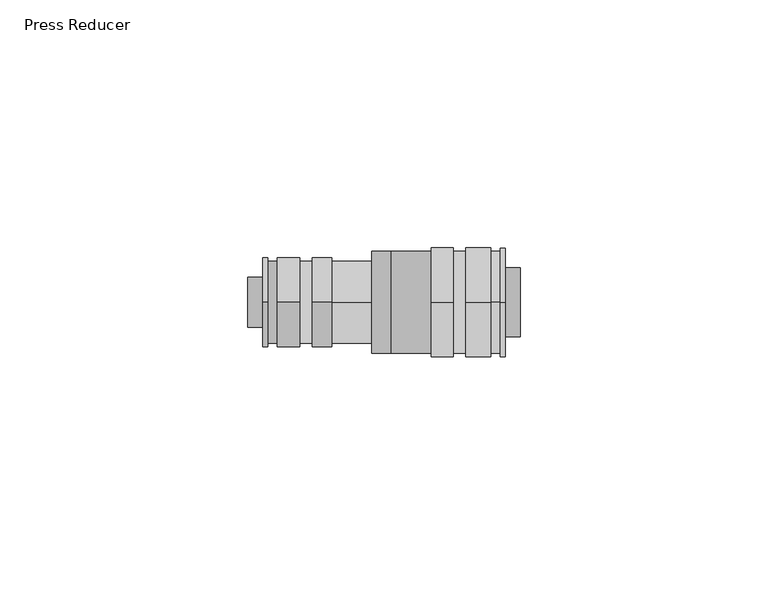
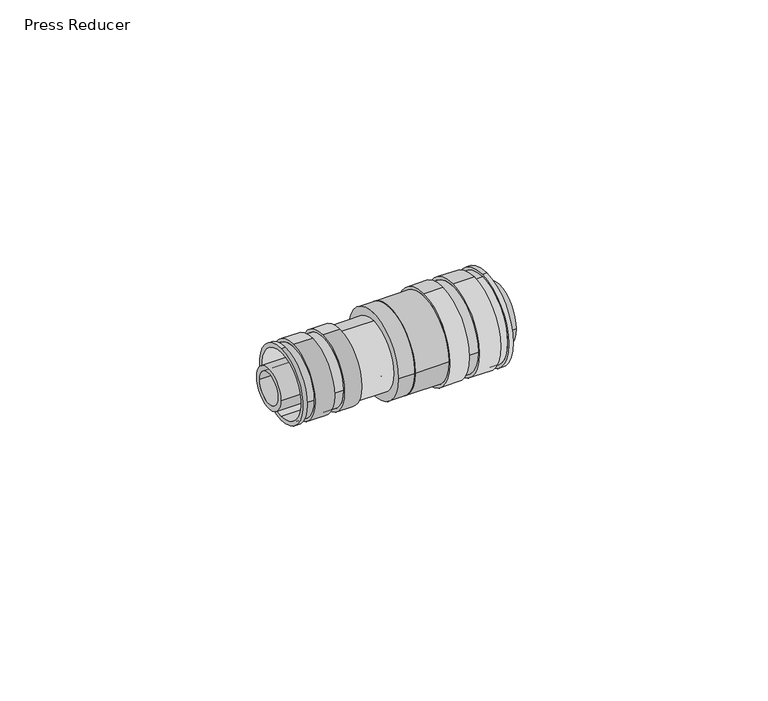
"""IFC4 building model written with IfcOpenShell, lengths in millimetres: pipe fitting geometry, Press Reducer : Superpipe Press Reducer."""

from ifc_helpers import new_model, si_unit, point, frame, frame_2d, origin, place, context, project, spatial, polyline, circle_curve, trimmed, segment, composite_curve, outline, extrude, source, transform, mapped, element, save
from ifc_brep_helpers import plane_surface, cylinder_surface, revolved_surface, advanced_brep


def press_reducer_475ca5cc(model_context):
    return source(origin(), model_context, "Body", "SolidModel", [
        advanced_brep(
        [(3.0, 0.0, -9.0), (3.0, 0.0, 9.0), (3.0, 0.0, -8.0), (3.0, 0.0, 8.0), (25.0, 0.0, -8.3), (25.0, 0.0, 8.3), (25.0, 0.0, -8.0), (25.0, 0.0, 8.0), (4.0, 0.0, -9.0), (4.0, -9.0, 0.0), (4.0, 0.0, 9.0), (17.0, 0.0, -9.0), (17.0, 0.0, 9.0), (13.0, 0.0, 9.0), (13.0, -9.0, 0.0), (13.0, 0.0, -9.0), (10.5, 0.0, -9.0), (10.5, -9.0, 0.0), (10.5, 0.0, 9.0), (6.0, 0.0, 9.0), (6.0, -9.0, 0.0), (6.0, 0.0, -9.0), (4.0, 9.0, 0.0), (13.0, 9.0, 0.0), (10.5, 9.0, 0.0), (6.0, 9.0, 0.0), (17.0, 0.0, -8.3), (17.0, 0.0, 8.3), (10.5, 8.3, 0.0), (10.5, -8.3, 0.0), (13.0, 8.3, 0.0), (13.0, -8.3, 0.0), (6.0, -8.3, 0.0), (6.0, 8.3, 0.0), (4.0, -8.3, 0.0), (4.0, 8.3, 0.0)],
        [
            (0, 1, circle_curve(frame((3.0, 0.0, 0.0), z_axis=(-1.0, 0.0, 0.0), x_axis=(0.0, 0.0, 1.0)), 9.0)),
            (1, 0, circle_curve(frame((3.0, 0.0, 0.0), z_axis=(-1.0, 0.0, 0.0), x_axis=(0.0, 0.0, 1.0)), 9.0)),
            (2, 3, circle_curve(frame((3.0, 0.0, 0.0), z_axis=(1.0, 0.0, 0.0), x_axis=(0.0, 0.0, 1.0)), 8.0)),
            (3, 2, circle_curve(frame((3.0, 0.0, 0.0), z_axis=(1.0, 0.0, 0.0), x_axis=(0.0, 0.0, 1.0)), 8.0)),
            (4, 5, circle_curve(frame((25.0, 0.0, 0.0), z_axis=(1.0, 0.0, 0.0), x_axis=(0.0, 0.0, 1.0)), 8.3)),
            (5, 4, circle_curve(frame((25.0, 0.0, 0.0), z_axis=(1.0, 0.0, 0.0), x_axis=(0.0, 0.0, 1.0)), 8.3)),
            (6, 7, circle_curve(frame((25.0, 0.0, 0.0), z_axis=(-1.0, 0.0, 0.0), x_axis=(0.0, 0.0, 1.0)), 8.0)),
            (7, 6, circle_curve(frame((25.0, 0.0, 0.0), z_axis=(-1.0, 0.0, 0.0), x_axis=(0.0, 0.0, 1.0)), 8.0)),
            (0, 8),
            (8, 9, circle_curve(frame((4.0, 0.0, 0.0), z_axis=(-1.0, 0.0, 0.0), x_axis=(0.0, 0.0, 1.0)), 9.0)),
            (9, 10, circle_curve(frame((4.0, 0.0, 0.0), z_axis=(-1.0, 0.0, 0.0), x_axis=(0.0, 0.0, 1.0)), 9.0)),
            (10, 1),
            (11, 12, circle_curve(frame((17.0, 0.0, 0.0), z_axis=(-1.0, 0.0, 0.0), x_axis=(0.0, 0.0, 1.0)), 9.0)),
            (12, 13),
            (13, 14, circle_curve(frame((13.0, 0.0, 0.0), z_axis=(1.0, 0.0, 0.0), x_axis=(0.0, 0.0, 1.0)), 9.0)),
            (14, 15, circle_curve(frame((13.0, 0.0, 0.0), z_axis=(1.0, 0.0, 0.0), x_axis=(0.0, 0.0, 1.0)), 9.0)),
            (15, 11),
            (16, 17, circle_curve(frame((10.5, 0.0, 0.0), z_axis=(-1.0, 0.0, 0.0), x_axis=(0.0, 0.0, 1.0)), 9.0)),
            (17, 18, circle_curve(frame((10.5, 0.0, 0.0), z_axis=(-1.0, 0.0, 0.0), x_axis=(0.0, 0.0, 1.0)), 9.0)),
            (18, 19),
            (19, 20, circle_curve(frame((6.0, 0.0, 0.0), z_axis=(1.0, 0.0, 0.0), x_axis=(0.0, 0.0, 1.0)), 9.0)),
            (20, 21, circle_curve(frame((6.0, 0.0, 0.0), z_axis=(1.0, 0.0, 0.0), x_axis=(0.0, 0.0, 1.0)), 9.0)),
            (21, 16),
            (10, 22, circle_curve(frame((4.0, 0.0, 0.0), z_axis=(-1.0, 0.0, 0.0), x_axis=(0.0, 0.0, 1.0)), 9.0)),
            (22, 8, circle_curve(frame((4.0, 0.0, 0.0), z_axis=(-1.0, 0.0, 0.0), x_axis=(0.0, 0.0, 1.0)), 9.0)),
            (12, 11, circle_curve(frame((17.0, 0.0, 0.0), z_axis=(-1.0, 0.0, 0.0), x_axis=(0.0, 0.0, 1.0)), 9.0)),
            (15, 23, circle_curve(frame((13.0, 0.0, 0.0), z_axis=(1.0, 0.0, 0.0), x_axis=(0.0, 0.0, 1.0)), 9.0)),
            (23, 13, circle_curve(frame((13.0, 0.0, 0.0), z_axis=(1.0, 0.0, 0.0), x_axis=(0.0, 0.0, 1.0)), 9.0)),
            (24, 16, circle_curve(frame((10.5, 0.0, 0.0), z_axis=(-1.0, 0.0, 0.0), x_axis=(0.0, 0.0, 1.0)), 9.0)),
            (21, 25, circle_curve(frame((6.0, 0.0, 0.0), z_axis=(1.0, 0.0, 0.0), x_axis=(0.0, 0.0, 1.0)), 9.0)),
            (25, 19, circle_curve(frame((6.0, 0.0, 0.0), z_axis=(1.0, 0.0, 0.0), x_axis=(0.0, 0.0, 1.0)), 9.0)),
            (18, 24, circle_curve(frame((10.5, 0.0, 0.0), z_axis=(-1.0, 0.0, 0.0), x_axis=(0.0, 0.0, 1.0)), 9.0)),
            (2, 6),
            (7, 3),
            (26, 27, circle_curve(frame((17.0, 0.0, 0.0), z_axis=(-1.0, 0.0, 0.0), x_axis=(0.0, 0.0, 1.0)), 8.3)),
            (27, 26, circle_curve(frame((17.0, 0.0, 0.0), z_axis=(-1.0, 0.0, 0.0), x_axis=(0.0, 0.0, 1.0)), 8.3)),
            (27, 5),
            (4, 26),
            (28, 29, circle_curve(frame((10.5, 0.0, 0.0), z_axis=(-1.0, 0.0, 0.0), x_axis=(0.0, -1.0, 0.0)), 8.3)),
            (29, 28, circle_curve(frame((10.5, 0.0, 0.0), z_axis=(-1.0, 0.0, 0.0), x_axis=(0.0, -1.0, 0.0)), 8.3)),
            (30, 31, circle_curve(frame((13.0, 0.0, 0.0), z_axis=(1.0, 0.0, 0.0), x_axis=(0.0, -1.0, 0.0)), 8.3)),
            (31, 30, circle_curve(frame((13.0, 0.0, 0.0), z_axis=(1.0, 0.0, 0.0), x_axis=(0.0, -1.0, 0.0)), 8.3)),
            (29, 31),
            (30, 28),
            (32, 33, circle_curve(frame((6.0, 0.0, 0.0), z_axis=(1.0, 0.0, 0.0), x_axis=(0.0, 1.0, 0.0)), 8.3)),
            (33, 32, circle_curve(frame((6.0, 0.0, 0.0), z_axis=(1.0, 0.0, 0.0), x_axis=(0.0, 1.0, 0.0)), 8.3)),
            (34, 35, circle_curve(frame((4.0, 0.0, 0.0), z_axis=(-1.0, 0.0, 0.0), x_axis=(0.0, 1.0, 0.0)), 8.3)),
            (35, 34, circle_curve(frame((4.0, 0.0, 0.0), z_axis=(-1.0, 0.0, 0.0), x_axis=(0.0, 1.0, 0.0)), 8.3)),
            (33, 35),
            (34, 32),
        ],
        [
            plane_surface(frame((3.0, 0.0, 9.0), z_axis=(-1.0, 0.0, 0.0), x_axis=(0.0, 1.0, 0.0))),
            plane_surface(frame((25.0, 0.0, 9.0), z_axis=(1.0, 0.0, 0.0), x_axis=(0.0, -1.0, 0.0))),
            cylinder_surface(frame((25.0, 0.0, 0.0), z_axis=(-1.0, 0.0, 0.0), x_axis=(0.0, 0.0, 1.0)), 9.0),
            revolved_surface(polyline([(25.0, 0.0, 8.0), (3.0, 0.0, 8.0)]), (25.0, 0.0, 0.0), (1.0, 0.0, 0.0)),
            plane_surface(frame((17.0, 0.0, 9.0), z_axis=(1.0, 0.0, 0.0), x_axis=(0.0, 1.0, 0.0))),
            cylinder_surface(frame((25.0, 0.0, 0.0), z_axis=(1.0, 0.0, 0.0), x_axis=(0.0, 0.0, 1.0)), 8.3),
            plane_surface(frame((10.5, -9.0, 0.0), z_axis=(1.0, 0.0, 0.0), x_axis=(0.0, 0.0, 1.0))),
            plane_surface(frame((13.0, -9.0, 0.0), z_axis=(-1.0, 0.0, 0.0), x_axis=(0.0, 0.0, -1.0))),
            cylinder_surface(frame((13.0, 0.0, 0.0), z_axis=(1.0, 0.0, 0.0), x_axis=(0.0, -1.0, 0.0)), 8.3),
            plane_surface(frame((6.0, 9.0, 0.0), z_axis=(-1.0, 0.0, 0.0), x_axis=(0.0, 0.0, 1.0))),
            plane_surface(frame((4.0, 9.0, 0.0), z_axis=(1.0, 0.0, 0.0), x_axis=(0.0, 0.0, -1.0))),
            cylinder_surface(frame((3.0, 0.0, 0.0), z_axis=(-1.0, 0.0, 0.0), x_axis=(0.0, 1.0, 0.0)), 8.3),
        ],
        [
            (0, [[1, 2], [3, 4]]),
            (1, [[5, 6], [7, 8]]),
            (2, [[-1, 9, 10, 11, 12]]),
            (2, [[13, 14, 15, 16, 17]]),
            (2, [[18, 19, 20, 21, 22, 23]]),
            (2, [[-2, -12, 24, 25, -9]]),
            (2, [[26, -17, 27, 28, -14]]),
            (2, [[29, -23, 30, 31, -20, 32]]),
            (3, [[-3, 33, -8, 34]]),
            (3, [[-4, -34, -7, -33]]),
            (4, [[-13, -26], [35, 36]]),
            (5, [[-36, 37, -5, 38]]),
            (5, [[-35, -38, -6, -37]]),
            (6, [[-18, -29, -32, -19], [39, 40]]),
            (7, [[-16, -15, -28, -27], [41, 42]]),
            (8, [[-40, 43, -41, 44]]),
            (8, [[-39, -44, -42, -43]]),
            (9, [[-22, -21, -31, -30], [45, 46]]),
            (10, [[-10, -25, -24, -11], [47, 48]]),
            (11, [[-46, 49, -47, 50]]),
            (11, [[-45, -50, -48, -49]]),
        ],
    ),
        advanced_brep(
        [(52.0, 0.0, -11.0), (52.0, 0.0, 11.0), (52.0, 0.0, -10.0), (52.0, 0.0, 10.0), (29.0, -10.3, 0.0), (29.0, 10.3, 0.0), (29.0, 0.0, -10.0), (29.0, 0.0, 10.0), (51.0, 0.0, -11.0), (51.0, 0.0, 11.0), (37.0, 0.0, -11.0), (37.0, 11.0, 0.0), (37.0, 0.0, 11.0), (41.5, 0.0, 11.0), (41.5, 11.0, 0.0), (41.5, 0.0, -11.0), (49.0, 0.0, 11.0), (49.0, 0.0, -11.0), (44.0, 0.0, -11.0), (44.0, 11.0, 0.0), (44.0, 0.0, 11.0), (37.0, -11.0, 0.0), (41.5, -11.0, 0.0), (44.0, -11.0, 0.0), (37.0, -10.3, 0.0), (37.0, 10.3, 0.0), (49.0, 0.0, 10.3), (49.0, 0.0, -10.3), (51.0, 0.0, 10.3), (51.0, 0.0, -10.3), (41.5, 10.3, 0.0), (41.5, -10.3, 0.0), (44.0, 10.3, 0.0), (44.0, -10.3, 0.0)],
        [
            (0, 1, circle_curve(frame((52.0, 0.0, 0.0), z_axis=(1.0, 0.0, 0.0), x_axis=(0.0, 0.0, 1.0)), 11.0)),
            (1, 0, circle_curve(frame((52.0, 0.0, 0.0), z_axis=(1.0, 0.0, 0.0), x_axis=(0.0, 0.0, 1.0)), 11.0)),
            (2, 3, circle_curve(frame((52.0, 0.0, 0.0), z_axis=(-1.0, 0.0, 0.0), x_axis=(0.0, 0.0, 1.0)), 10.0)),
            (3, 2, circle_curve(frame((52.0, 0.0, 0.0), z_axis=(-1.0, 0.0, 0.0), x_axis=(0.0, 0.0, 1.0)), 10.0)),
            (4, 5, circle_curve(frame((29.0, 0.0, 0.0), z_axis=(-1.0, 0.0, 0.0), x_axis=(0.0, 1.0, 0.0)), 10.3)),
            (5, 4, circle_curve(frame((29.0, 0.0, 0.0), z_axis=(-1.0, 0.0, 0.0), x_axis=(0.0, 1.0, 0.0)), 10.3)),
            (6, 7, circle_curve(frame((29.0, 0.0, 0.0), z_axis=(1.0, 0.0, 0.0), x_axis=(0.0, 0.0, 1.0)), 10.0)),
            (7, 6, circle_curve(frame((29.0, 0.0, 0.0), z_axis=(1.0, 0.0, 0.0), x_axis=(0.0, 0.0, 1.0)), 10.0)),
            (0, 8),
            (8, 9, circle_curve(frame((51.0, 0.0, 0.0), z_axis=(1.0, 0.0, 0.0), x_axis=(0.0, 0.0, 1.0)), 11.0)),
            (9, 1),
            (10, 11, circle_curve(frame((37.0, 0.0, 0.0), z_axis=(1.0, 0.0, 0.0), x_axis=(0.0, 0.0, 1.0)), 11.0)),
            (11, 12, circle_curve(frame((37.0, 0.0, 0.0), z_axis=(1.0, 0.0, 0.0), x_axis=(0.0, 0.0, 1.0)), 11.0)),
            (12, 13),
            (13, 14, circle_curve(frame((41.5, 0.0, 0.0), z_axis=(-1.0, 0.0, 0.0), x_axis=(0.0, 0.0, 1.0)), 11.0)),
            (14, 15, circle_curve(frame((41.5, 0.0, 0.0), z_axis=(-1.0, 0.0, 0.0), x_axis=(0.0, 0.0, 1.0)), 11.0)),
            (15, 10),
            (16, 17, circle_curve(frame((49.0, 0.0, 0.0), z_axis=(-1.0, 0.0, 0.0), x_axis=(0.0, 0.0, 1.0)), 11.0)),
            (17, 18),
            (18, 19, circle_curve(frame((44.0, 0.0, 0.0), z_axis=(1.0, 0.0, 0.0), x_axis=(0.0, 0.0, 1.0)), 11.0)),
            (19, 20, circle_curve(frame((44.0, 0.0, 0.0), z_axis=(1.0, 0.0, 0.0), x_axis=(0.0, 0.0, 1.0)), 11.0)),
            (20, 16),
            (9, 8, circle_curve(frame((51.0, 0.0, 0.0), z_axis=(1.0, 0.0, 0.0), x_axis=(0.0, 0.0, 1.0)), 11.0)),
            (21, 10, circle_curve(frame((37.0, 0.0, 0.0), z_axis=(1.0, 0.0, 0.0), x_axis=(0.0, 0.0, 1.0)), 11.0)),
            (15, 22, circle_curve(frame((41.5, 0.0, 0.0), z_axis=(-1.0, 0.0, 0.0), x_axis=(0.0, 0.0, 1.0)), 11.0)),
            (22, 13, circle_curve(frame((41.5, 0.0, 0.0), z_axis=(-1.0, 0.0, 0.0), x_axis=(0.0, 0.0, 1.0)), 11.0)),
            (12, 21, circle_curve(frame((37.0, 0.0, 0.0), z_axis=(1.0, 0.0, 0.0), x_axis=(0.0, 0.0, 1.0)), 11.0)),
            (17, 16, circle_curve(frame((49.0, 0.0, 0.0), z_axis=(-1.0, 0.0, 0.0), x_axis=(0.0, 0.0, 1.0)), 11.0)),
            (20, 23, circle_curve(frame((44.0, 0.0, 0.0), z_axis=(1.0, 0.0, 0.0), x_axis=(0.0, 0.0, 1.0)), 11.0)),
            (23, 18, circle_curve(frame((44.0, 0.0, 0.0), z_axis=(1.0, 0.0, 0.0), x_axis=(0.0, 0.0, 1.0)), 11.0)),
            (2, 6),
            (7, 3),
            (24, 25, circle_curve(frame((37.0, 0.0, 0.0), z_axis=(1.0, 0.0, 0.0), x_axis=(0.0, 1.0, 0.0)), 10.3)),
            (25, 24, circle_curve(frame((37.0, 0.0, 0.0), z_axis=(1.0, 0.0, 0.0), x_axis=(0.0, 1.0, 0.0)), 10.3)),
            (25, 5),
            (4, 24),
            (26, 27, circle_curve(frame((49.0, 0.0, 0.0), z_axis=(-1.0, 0.0, 0.0), x_axis=(0.0, 0.0, -1.0)), 10.3)),
            (27, 26, circle_curve(frame((49.0, 0.0, 0.0), z_axis=(-1.0, 0.0, 0.0), x_axis=(0.0, 0.0, -1.0)), 10.3)),
            (28, 29, circle_curve(frame((51.0, 0.0, 0.0), z_axis=(1.0, 0.0, 0.0), x_axis=(0.0, 0.0, -1.0)), 10.3)),
            (29, 28, circle_curve(frame((51.0, 0.0, 0.0), z_axis=(1.0, 0.0, 0.0), x_axis=(0.0, 0.0, -1.0)), 10.3)),
            (27, 29),
            (28, 26),
            (30, 31, circle_curve(frame((41.5, 0.0, 0.0), z_axis=(-1.0, 0.0, 0.0), x_axis=(0.0, -1.0, 0.0)), 10.3)),
            (31, 30, circle_curve(frame((41.5, 0.0, 0.0), z_axis=(-1.0, 0.0, 0.0), x_axis=(0.0, -1.0, 0.0)), 10.3)),
            (32, 33, circle_curve(frame((44.0, 0.0, 0.0), z_axis=(1.0, 0.0, 0.0), x_axis=(0.0, -1.0, 0.0)), 10.3)),
            (33, 32, circle_curve(frame((44.0, 0.0, 0.0), z_axis=(1.0, 0.0, 0.0), x_axis=(0.0, -1.0, 0.0)), 10.3)),
            (31, 33),
            (32, 30),
        ],
        [
            plane_surface(frame((52.0, 0.0, 11.0), z_axis=(1.0, 0.0, 0.0), x_axis=(0.0, -1.0, 0.0))),
            plane_surface(frame((29.0, 0.0, 11.0), z_axis=(-1.0, 0.0, 0.0), x_axis=(0.0, 1.0, 0.0))),
            cylinder_surface(frame((29.0, 0.0, 0.0), z_axis=(1.0, 0.0, 0.0), x_axis=(0.0, 0.0, 1.0)), 11.0),
            revolved_surface(polyline([(29.0, 0.0, 10.0), (52.0, 0.0, 10.0)]), (29.0, 0.0, 0.0), (-1.0, 0.0, 0.0)),
            plane_surface(frame((37.0, 11.0, 0.0), z_axis=(-1.0, 0.0, 0.0), x_axis=(0.0, 0.0, 1.0))),
            cylinder_surface(frame((29.0, 0.0, 0.0), z_axis=(-1.0, 0.0, 0.0), x_axis=(0.0, 1.0, 0.0)), 10.3),
            plane_surface(frame((49.0, 0.0, -11.0), z_axis=(1.0, 0.0, 0.0), x_axis=(0.0, -1.0, 0.0))),
            plane_surface(frame((51.0, 0.0, -11.0), z_axis=(-1.0, 0.0, 0.0), x_axis=(0.0, 1.0, 0.0))),
            cylinder_surface(frame((52.0, 0.0, 0.0), z_axis=(1.0, 0.0, 0.0), x_axis=(0.0, 0.0, -1.0)), 10.3),
            plane_surface(frame((41.5, -11.0, 0.0), z_axis=(1.0, 0.0, 0.0), x_axis=(0.0, 0.0, 1.0))),
            plane_surface(frame((44.0, -11.0, 0.0), z_axis=(-1.0, 0.0, 0.0), x_axis=(0.0, 0.0, -1.0))),
            cylinder_surface(frame((41.5, 0.0, 0.0), z_axis=(1.0, 0.0, 0.0), x_axis=(0.0, -1.0, 0.0)), 10.3),
        ],
        [
            (0, [[1, 2], [3, 4]]),
            (1, [[5, 6], [7, 8]]),
            (2, [[-1, 9, 10, 11]]),
            (2, [[12, 13, 14, 15, 16, 17]]),
            (2, [[18, 19, 20, 21, 22]]),
            (2, [[-2, -11, 23, -9]]),
            (2, [[24, -17, 25, 26, -14, 27]]),
            (2, [[28, -22, 29, 30, -19]]),
            (3, [[-3, 31, -8, 32]]),
            (3, [[-4, -32, -7, -31]]),
            (4, [[-12, -24, -27, -13], [33, 34]]),
            (5, [[-34, 35, -5, 36]]),
            (5, [[-33, -36, -6, -35]]),
            (6, [[-18, -28], [37, 38]]),
            (7, [[-10, -23], [39, 40]]),
            (8, [[-38, 41, -39, 42]]),
            (8, [[-37, -42, -40, -41]]),
            (9, [[-16, -15, -26, -25], [43, 44]]),
            (10, [[-20, -30, -29, -21], [45, 46]]),
            (11, [[-44, 47, -45, 48]]),
            (11, [[-43, -48, -46, -47]]),
        ],
    ),
        extrude(outline(composite_curve([segment(trimmed(circle_curve(frame_2d((-0.000673, 0.0)), 7.0), [point((-7.000673, 0.0))], [point((6.999327, 0.0))], False, "CARTESIAN"), True, "CONTINUOUS"), segment(trimmed(circle_curve(frame_2d((-0.000673, 0.0)), 7.0), [point((6.999327, 0.0))], [point((-7.000673, 0.0))], False, "CARTESIAN"), True, "CONTINUOUS")], self_intersect=False), holes=[composite_curve([segment(trimmed(circle_curve(frame_2d((-0.000673, 0.0)), 5.0), [point((4.999327, 0.0))], [point((-5.000673, 0.0))], True, "CARTESIAN"), True, "CONTINUOUS"), segment(trimmed(circle_curve(frame_2d((-0.000673, 0.0)), 5.0), [point((-5.000673, 0.0))], [point((4.999327, 0.0))], True, "CARTESIAN"), True, "CONTINUOUS")], self_intersect=False)]), frame((29.0, 0.0, 0.0), z_axis=(1.0, 0.0, 0.0), x_axis=(0.0, 1.0, 0.0)), (0.0, 0.0, 1.0), 26.0),
        extrude(outline(composite_curve([segment(trimmed(circle_curve(frame_2d((-0.000673, 0.0)), 10.3), [point((-10.300673, 0.0))], [point((10.299327, 0.0))], False, "CARTESIAN"), True, "CONTINUOUS"), segment(trimmed(circle_curve(frame_2d((-0.000673, 0.0)), 10.3), [point((10.299327, 0.0))], [point((-10.300673, 0.0))], False, "CARTESIAN"), True, "CONTINUOUS")], self_intersect=False), holes=[composite_curve([segment(trimmed(circle_curve(frame_2d((-0.000673, 0.0)), 5.0), [point((4.999327, 0.0))], [point((-5.000673, 0.0))], True, "CARTESIAN"), True, "CONTINUOUS"), segment(trimmed(circle_curve(frame_2d((-0.000673, 0.0)), 5.0), [point((-5.000673, 0.0))], [point((4.999327, 0.0))], True, "CARTESIAN"), True, "CONTINUOUS")], self_intersect=False)]), frame((25.0, 0.0, 0.0), z_axis=(1.0, 0.0, 0.0), x_axis=(0.0, 1.0, 0.0)), (0.0, 0.0, 1.0), 4.0),
        extrude(outline(composite_curve([segment(trimmed(circle_curve(frame_2d((-0.000673, 0.0)), 5.0), [point((-5.000673, 0.0))], [point((4.999327, 0.0))], False, "CARTESIAN"), True, "CONTINUOUS"), segment(trimmed(circle_curve(frame_2d((-0.000673, 0.0)), 5.0), [point((4.999327, 0.0))], [point((-5.000673, 0.0))], False, "CARTESIAN"), True, "CONTINUOUS")], self_intersect=False), holes=[composite_curve([segment(trimmed(circle_curve(frame_2d((-0.000673, 0.0)), 3.8), [point((3.799327, 0.0))], [point((-3.800673, 0.0))], True, "CARTESIAN"), True, "CONTINUOUS"), segment(trimmed(circle_curve(frame_2d((-0.000673, 0.0)), 3.8), [point((-3.800673, 0.0))], [point((3.799327, 0.0))], True, "CARTESIAN"), True, "CONTINUOUS")], self_intersect=False)]), frame((0.0, 0.0, 0.0), z_axis=(1.0, 0.0, 0.0), x_axis=(0.0, 1.0, 0.0)), (0.0, 0.0, 1.0), 25.0),
    ])


if __name__ == "__main__":
    model = new_model("IFC4")
    model_context = context("Model", 3, world=origin())
    ifc_project = project(units=[si_unit("LENGTHUNIT", "METRE", prefix="MILLI")], contexts=[model_context])
    site = spatial("IfcSite", under=ifc_project)
    building = spatial("IfcBuilding", under=site)
    placement = place(None, origin())
    press_reducer_shape = press_reducer_475ca5cc(model_context)
    element("IfcPipeFitting", 1, ObjectType="Press Reducer : Superpipe Press Reducer", at=placement, inside=building, context=model_context, shape_type="MappedRepresentation", body=[
        mapped(press_reducer_shape, transform((0.0, 0.0, 0.0), x_axis=(1.0, 0.0, 0.0), y_axis=(0.0, 1.0, 0.0), z_axis=(0.0, 0.0, 1.0))),
    ])
    save(model, "model.ifc")
